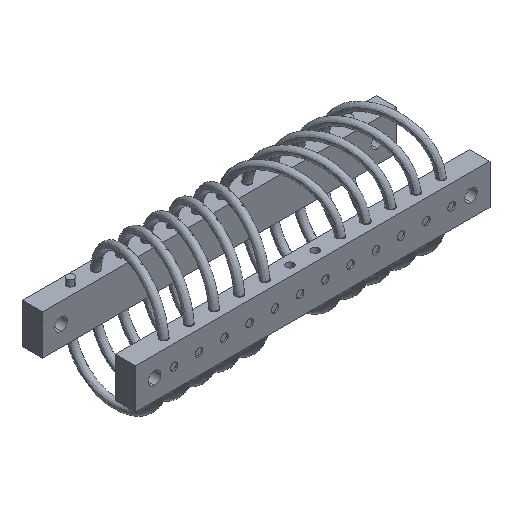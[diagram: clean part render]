
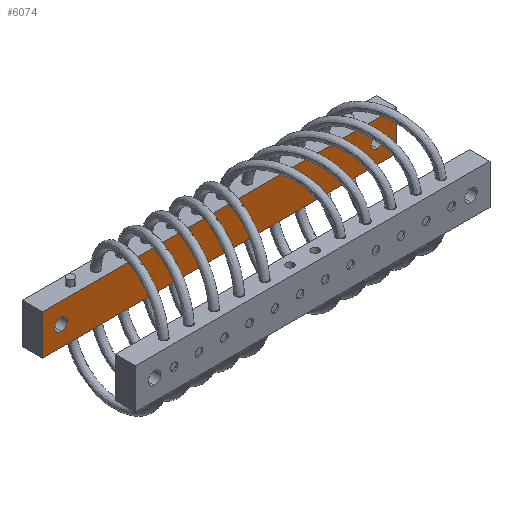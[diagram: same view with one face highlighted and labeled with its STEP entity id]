
A CAD part, isometric view. The second image highlights one B-rep face of the part: STEP entity #6074.
In plain terms, the highlighted planar face has unit normal (0, -1, 0).
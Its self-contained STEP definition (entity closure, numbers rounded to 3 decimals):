
#41 = CARTESIAN_POINT ( 'NONE',  ( -56.15, 11.6, 6.35 ) ) ;
#741 = DIRECTION ( 'NONE',  ( 0., 1., 0. ) ) ;
#1149 = DIRECTION ( 'NONE',  ( -1., 0., 0. ) ) ;
#1276 = EDGE_CURVE ( 'NONE', #6852, #10845, #3248, .T. ) ;
#1420 = CARTESIAN_POINT ( 'NONE',  ( 56.15, 11.6, 6.35 ) ) ;
#1562 = DIRECTION ( 'NONE',  ( 0., 0., -1. ) ) ;
#1613 = VECTOR ( 'NONE', #11960, 1000. ) ;
#2122 = VERTEX_POINT ( 'NONE', #19441 ) ;
#2604 = EDGE_CURVE ( 'NONE', #18155, #16998, #3457, .T. ) ;
#2667 = CARTESIAN_POINT ( 'NONE',  ( 56.15, 11.6, 6.35 ) ) ;
#3062 = VERTEX_POINT ( 'NONE', #11673 ) ;
#3248 = CIRCLE ( 'NONE', #10889, 2. ) ;
#3457 = CIRCLE ( 'NONE', #17850, 2. ) ;
#3923 = FACE_OUTER_BOUND ( 'NONE', #15348, .T. ) ;
#3973 = LINE ( 'NONE', #2667, #11530 ) ;
#4246 = CARTESIAN_POINT ( 'NONE',  ( 56.15, 11.6, -6.35 ) ) ;
#4404 = CIRCLE ( 'NONE', #11183, 2. ) ;
#4855 = VECTOR ( 'NONE', #1562, 1000. ) ;
#5687 = CARTESIAN_POINT ( 'NONE',  ( -50.15, 11.6, 0. ) ) ;
#6074 = ADVANCED_FACE ( 'NONE', ( #10544, #14545, #3923 ), #12526, .F. ) ;
#6529 = DIRECTION ( 'NONE',  ( 0., 0., 1. ) ) ;
#6678 = EDGE_LOOP ( 'NONE', ( #17242, #14861 ) ) ;
#6852 = VERTEX_POINT ( 'NONE', #12015 ) ;
#7167 = VERTEX_POINT ( 'NONE', #12631 ) ;
#7225 = DIRECTION ( 'NONE',  ( 0., 0., 1. ) ) ;
#7264 = CARTESIAN_POINT ( 'NONE',  ( 50.15, 11.6, 2. ) ) ;
#7419 = CARTESIAN_POINT ( 'NONE',  ( 50.15, 11.6, 0. ) ) ;
#7558 = ORIENTED_EDGE ( 'NONE', *, *, #19146, .T. ) ;
#8850 = DIRECTION ( 'NONE',  ( 0., 1., 0. ) ) ;
#8920 = DIRECTION ( 'NONE',  ( 0., 0., 1. ) ) ;
#9504 = CARTESIAN_POINT ( 'NONE',  ( 56.15, 11.6, 6.35 ) ) ;
#9710 = ORIENTED_EDGE ( 'NONE', *, *, #18275, .T. ) ;
#9782 = CARTESIAN_POINT ( 'NONE',  ( 50.15, 11.6, 0. ) ) ;
#10544 = FACE_BOUND ( 'NONE', #18948, .T. ) ;
#10652 = AXIS2_PLACEMENT_3D ( 'NONE', #7419, #17954, #8920 ) ;
#10845 = VERTEX_POINT ( 'NONE', #14231 ) ;
#10889 = AXIS2_PLACEMENT_3D ( 'NONE', #17873, #8850, #19414 ) ;
#11183 = AXIS2_PLACEMENT_3D ( 'NONE', #5687, #16244, #7225 ) ;
#11299 = DIRECTION ( 'NONE',  ( 0., 0., 1. ) ) ;
#11530 = VECTOR ( 'NONE', #1149, 1000. ) ;
#11544 = EDGE_CURVE ( 'NONE', #2122, #19200, #3973, .T. ) ;
#11583 = ORIENTED_EDGE ( 'NONE', *, *, #11697, .F. ) ;
#11673 = CARTESIAN_POINT ( 'NONE',  ( 56.15, 11.6, -6.35 ) ) ;
#11697 = EDGE_CURVE ( 'NONE', #2122, #3062, #17674, .T. ) ;
#11930 = CARTESIAN_POINT ( 'NONE',  ( -56.15, 11.6, 6.35 ) ) ;
#11960 = DIRECTION ( 'NONE',  ( 0., 0., -1. ) ) ;
#12015 = CARTESIAN_POINT ( 'NONE',  ( -50.15, 11.6, -2. ) ) ;
#12526 = PLANE ( 'NONE',  #18795 ) ;
#12631 = CARTESIAN_POINT ( 'NONE',  ( -56.15, 11.6, -6.35 ) ) ;
#12877 = LINE ( 'NONE', #41, #4855 ) ;
#13057 = ORIENTED_EDGE ( 'NONE', *, *, #2604, .T. ) ;
#13285 = DIRECTION ( 'NONE',  ( -1., 0., 0. ) ) ;
#13444 = CARTESIAN_POINT ( 'NONE',  ( 50.15, 11.6, -2. ) ) ;
#14231 = CARTESIAN_POINT ( 'NONE',  ( -50.15, 11.6, 2. ) ) ;
#14545 = FACE_BOUND ( 'NONE', #6678, .T. ) ;
#14695 = ORIENTED_EDGE ( 'NONE', *, *, #16519, .F. ) ;
#14861 = ORIENTED_EDGE ( 'NONE', *, *, #1276, .T. ) ;
#15348 = EDGE_LOOP ( 'NONE', ( #9710, #14695, #11583, #19212 ) ) ;
#15561 = DIRECTION ( 'NONE',  ( 0., 1., 0. ) ) ;
#15983 = LINE ( 'NONE', #4246, #16468 ) ;
#16244 = DIRECTION ( 'NONE',  ( 0., 1., 0. ) ) ;
#16468 = VECTOR ( 'NONE', #13285, 1000. ) ;
#16519 = EDGE_CURVE ( 'NONE', #3062, #7167, #15983, .T. ) ;
#16998 = VERTEX_POINT ( 'NONE', #7264 ) ;
#17242 = ORIENTED_EDGE ( 'NONE', *, *, #17360, .T. ) ;
#17360 = EDGE_CURVE ( 'NONE', #10845, #6852, #4404, .T. ) ;
#17508 = CIRCLE ( 'NONE', #10652, 2. ) ;
#17674 = LINE ( 'NONE', #1420, #1613 ) ;
#17850 = AXIS2_PLACEMENT_3D ( 'NONE', #9782, #741, #11299 ) ;
#17873 = CARTESIAN_POINT ( 'NONE',  ( -50.15, 11.6, 0. ) ) ;
#17954 = DIRECTION ( 'NONE',  ( 0., 1., 0. ) ) ;
#18155 = VERTEX_POINT ( 'NONE', #13444 ) ;
#18275 = EDGE_CURVE ( 'NONE', #19200, #7167, #12877, .T. ) ;
#18795 = AXIS2_PLACEMENT_3D ( 'NONE', #9504, #15561, #6529 ) ;
#18948 = EDGE_LOOP ( 'NONE', ( #7558, #13057 ) ) ;
#19146 = EDGE_CURVE ( 'NONE', #16998, #18155, #17508, .T. ) ;
#19200 = VERTEX_POINT ( 'NONE', #11930 ) ;
#19212 = ORIENTED_EDGE ( 'NONE', *, *, #11544, .T. ) ;
#19414 = DIRECTION ( 'NONE',  ( 0., 0., 1. ) ) ;
#19441 = CARTESIAN_POINT ( 'NONE',  ( 56.15, 11.6, 6.35 ) ) ;
